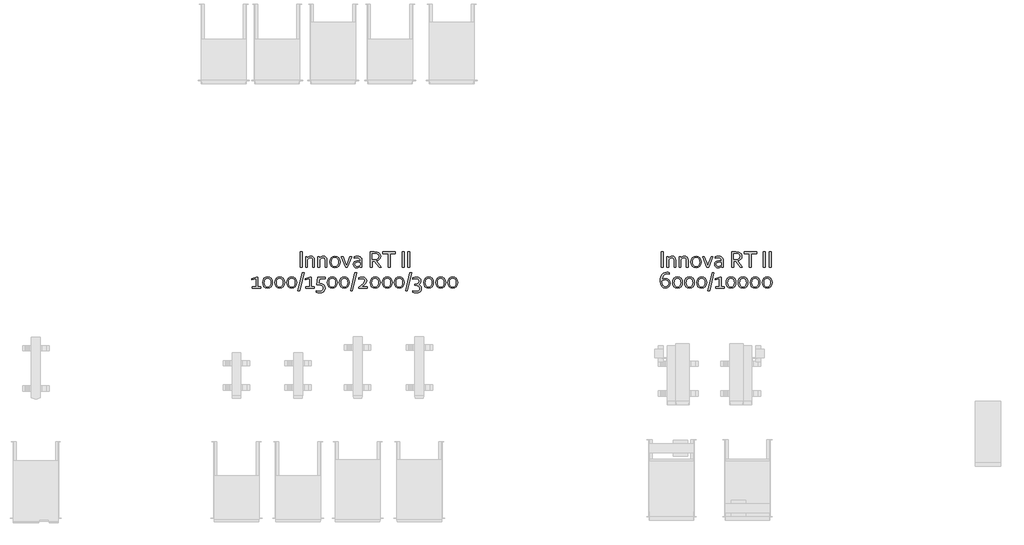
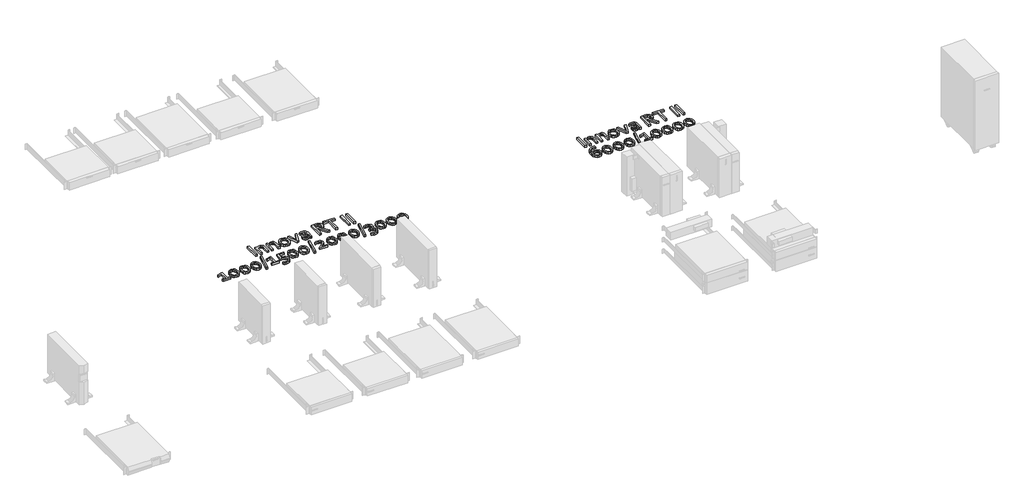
# One storey, part 7 of 14: 2 proxies.
"""IFC4 building model written with IfcOpenShell, lengths in millimetres."""

from ifc_helpers import new_model, si_unit, origin, origin_with_axes, place, context, project, spatial, polyline, outline, extrude, element, save

model = new_model("IFC4")

# Units and contexts
model_context = context("Model", 3, world=origin())
ifc_project = project(units=[si_unit("LENGTHUNIT", "METRE", prefix="MILLI")], contexts=[model_context])

# Site, building, storey
site = spatial("IfcSite", under=ifc_project)
building = spatial("IfcBuilding", under=site)
storey = spatial("IfcBuildingStorey", under=building, Name="Этаж 01", Elevation=0.0)

# Proxies
placement = place(None, origin())
element("IfcBuildingElementProxy", 1, Name="150 мм Corbel", ObjectType="150 мм Corbel", at=placement, inside=storey, context=model_context, shape_type="SweptSolid", body=[
    extrude(outline(polyline([(12080.5784617, -3344.4864996), (12080.5784617, -3193.2852077), (12100.1786291, -3193.2852077), (12100.1786291, -3344.4864996), (12080.5784617, -3344.4864996)])), origin_with_axes(), (0.0, 0.0, 1.0), 20.0),
    extrude(outline(polyline([(12150.491559, -3252.8732169), (12157.2072414, -3246.0044082), (12165.0604335, -3240.3824851), (12174.5761398, -3236.619953), (12185.841861, -3235.2855666), (12199.4482273, -3237.2980838), (12210.4514463, -3243.7950143), (12217.8452594, -3255.4982393), (12220.5796578, -3273.260891), (12220.5796578, -3344.4864996), (12203.7795143, -3344.4864996), (12203.7795143, -3275.4046594), (12202.4341903, -3263.4444009), (12198.3982183, -3255.3888633), (12191.7919118, -3250.8114805), (12182.7355845, -3249.2856862), (12165.1916846, -3254.5138559), (12150.5790597, -3268.8858537), (12150.5790597, -3344.4864996), (12133.7789162, -3344.4864996), (12133.7789162, -3238.0855905), (12147.1227802, -3238.0855905), (12150.491559, -3252.8732169)])), origin_with_axes(), (0.0, 0.0, 1.0), 20.0),
    extrude(outline(polyline([(12270.8925877, -3252.8732169), (12277.60827, -3246.0044082), (12285.4614621, -3240.3824851), (12294.9771684, -3236.619953), (12306.2428897, -3235.2855666), (12319.8492559, -3237.2980838), (12330.852475, -3243.7950143), (12338.2462881, -3255.4982393), (12340.9806865, -3273.260891), (12340.9806865, -3344.4864996), (12324.1805429, -3344.4864996), (12324.1805429, -3275.4046594), (12322.835219, -3263.4444009), (12318.799247, -3255.3888633), (12312.1929405, -3250.8114805), (12303.1366132, -3249.2856862), (12285.5927133, -3254.5138559), (12270.9800884, -3268.8858537), (12270.9800884, -3344.4864996), (12254.1799449, -3344.4864996), (12254.1799449, -3238.0855905), (12267.5238089, -3238.0855905), (12270.8925877, -3252.8732169)])), origin_with_axes(), (0.0, 0.0, 1.0), 20.0),
    extrude(outline(polyline([(12469.7817869, -3291.4172962), (12466.2161315, -3314.2331161), (12456.1097951, -3331.8863919), (12440.294035, -3343.2614891), (12419.5126074, -3347.2865235), (12398.3155513, -3343.2614891), (12382.4341657, -3331.8863919), (12372.4372052, -3314.2331161), (12368.9809257, -3291.4172962), (12372.5465812, -3268.4264747), (12382.6529175, -3250.7294485), (12398.5343032, -3239.310601), (12419.3813563, -3235.2855666), (12440.4909117, -3239.310601), (12456.3722974, -3250.7294485), (12466.3255074, -3268.4264747), (12469.7817869, -3291.4172962)]), holes=[polyline([(12452.9816434, -3291.4172962), (12450.4878721, -3273.5452685), (12443.5096875, -3260.3107804), (12432.8564715, -3252.0857101), (12419.3813563, -3249.2856862), (12405.9062412, -3252.0857101), (12395.2530252, -3260.3107804), (12388.2748406, -3273.5452685), (12385.7810693, -3291.4172962), (12388.2748406, -3309.1580727), (12395.3186507, -3322.3269353), (12406.0156171, -3330.48638), (12419.5126074, -3333.2864039), (12432.922097, -3330.48638), (12443.5096875, -3322.3269353), (12450.4878721, -3309.1580727), (12452.9816434, -3291.4172962)])]), origin_with_axes(), (0.0, 0.0, 1.0), 20.0),
    extrude(outline(polyline([(12532.6948245, -3326.8988493), (12543.4574164, -3297.2360959), (12564.9826003, -3238.0855905), (12581.7827439, -3238.0855905), (12541.7511518, -3344.4864996), (12523.8134986, -3344.4864996), (12483.7819066, -3238.0855905), (12500.5820501, -3238.0855905), (12521.9759829, -3297.2360959), (12532.6948245, -3326.8988493)])), origin_with_axes(), (0.0, 0.0, 1.0), 20.0),
    extrude(outline(polyline([(12666.308466, -3332.717649), (12660.5115415, -3338.0333194), (12653.0958531, -3342.7583598), (12643.9082746, -3346.061513), (12633.2769338, -3347.2865235), (12619.254939, -3345.0333793), (12608.2954704, -3338.4051976), (12601.1422843, -3327.7519816), (12598.5828874, -3313.5112349), (12601.4266617, -3299.5111153), (12609.3892297, -3289.0329008), (12621.7049599, -3282.4047192), (12637.6082208, -3280.0859494), (12652.8552261, -3281.5734621), (12665.3459578, -3284.9422408), (12665.7834615, -3277.3296758), (12665.2147067, -3268.9952296), (12663.2896902, -3262.6295502), (12654.014611, -3253.0700935), (12636.7332133, -3249.2856862), (12621.5299584, -3250.7731989), (12607.3767125, -3254.885734), (12607.3767125, -3241.1918671), (12613.6986415, -3238.8074717), (12621.3768321, -3236.9043304), (12629.8862798, -3235.7011951), (12638.8769817, -3235.2855666), (12653.5114817, -3236.7129225), (12665.1272059, -3240.9949904), (12673.7897799, -3247.6286408), (12679.5648293, -3256.1107445), (12681.8835991, -3264.007687), (12682.5836051, -3273.4796429), (12682.5836051, -3344.4864996), (12668.1897321, -3344.4864996), (12666.308466, -3332.717649)]), holes=[polyline([(12665.7834615, -3298.067353), (12654.1677373, -3295.4642057), (12639.4019861, -3294.086069), (12621.7487103, -3298.8548597), (12616.9744508, -3304.9033489), (12615.3830309, -3313.5112349), (12616.9799196, -3322.2613097), (12621.354957, -3328.4519876), (12627.9393882, -3332.0832686), (12636.0769577, -3333.2864039), (12646.6645482, -3331.6457649), (12655.3708726, -3327.7301064), (12661.8459279, -3323.1800675), (12665.7834615, -3319.6362873), (12665.7834615, -3298.067353)])]), origin_with_axes(), (0.0, 0.0, 1.0), 20.0),
    extrude(outline(polyline([(12783.3844663, -3282.8859733), (12783.3844663, -3344.4864996), (12763.7842988, -3344.4864996), (12763.7842988, -3193.2852077), (12802.7658819, -3193.2852077), (12819.5660254, -3194.0289641), (12832.2098835, -3196.3914843), (12846.1006271, -3202.2540344), (12856.272589, -3211.1791106), (12862.5070173, -3222.9370236), (12864.5851601, -3237.2980838), (12861.6757602, -3253.8794755), (12853.4944403, -3266.5670839), (12840.8724575, -3275.360909), (12824.553568, -3280.392202), (12870.1852079, -3344.4864996), (12850.5850405, -3344.4864996), (12805.1284021, -3282.8859733), (12783.3844663, -3282.8859733)]), holes=[polyline([(12783.3844663, -3210.0853513), (12783.3844663, -3266.0858297), (12801.0596173, -3266.0858297), (12815.1034873, -3265.5170749), (12825.5598266, -3263.4608073), (12839.9318244, -3253.9669762), (12844.9849926, -3236.9480808), (12840.1505763, -3221.1104455), (12827.0910897, -3212.4916218), (12817.6628842, -3210.6541061), (12803.6846397, -3210.0853513), (12783.3844663, -3210.0853513)])]), origin_with_axes(), (0.0, 0.0, 1.0), 20.0),
    extrude(outline(polyline([(12956.9859495, -3344.4864996), (12937.3857821, -3344.4864996), (12937.3857821, -3210.0853513), (12887.2916041, -3210.0853513), (12887.2916041, -3193.2852077), (13007.0801275, -3193.2852077), (13007.0801275, -3210.0853513), (12956.9859495, -3210.0853513), (12956.9859495, -3344.4864996)])), origin_with_axes(), (0.0, 0.0, 1.0), 20.0),
    extrude(outline(polyline([(13074.5869543, -3344.4864996), (13074.5869543, -3193.2852077), (13094.1871217, -3193.2852077), (13094.1871217, -3344.4864996), (13074.5869543, -3344.4864996)])), origin_with_axes(), (0.0, 0.0, 1.0), 20.0),
    extrude(outline(polyline([(13130.5874327, -3344.4864996), (13130.5874327, -3193.2852077), (13150.1876002, -3193.2852077), (13150.1876002, -3344.4864996), (13130.5874327, -3344.4864996)])), origin_with_axes(), (0.0, 0.0, 1.0), 20.0),
    extrude(outline(polyline([(12119.9537981, -3452.4861407), (12138.9633355, -3455.329915), (12154.0134641, -3463.7299868), (12163.8572982, -3477.445729), (12167.3792033, -3496.2802649), (12164.1416756, -3515.9241827), (12154.7790956, -3531.2805639), (12139.8164678, -3541.2775244), (12119.7350462, -3544.8869302), (12098.4723645, -3540.2275154), (12082.6566044, -3526.9055266), (12072.7908951, -3505.9272223), (12069.378366, -3478.2988613), (12071.0846305, -3455.5267917), (12076.1815491, -3434.7672394), (12084.603496, -3417.0045876), (12096.7004744, -3403.1357191), (12112.5162345, -3394.1012669), (12131.5913975, -3390.8856144), (12146.2696479, -3392.5481286), (12156.5728609, -3396.0919089), (12156.5728609, -3410.4857819), (12145.8321442, -3406.6138738), (12132.816408, -3404.885734), (12117.1975245, -3408.2107625), (12103.4599071, -3418.4702251), (12092.9598174, -3436.0797506), (12086.9660162, -3461.3237162), (12103.2849057, -3454.8924113), (12119.9537981, -3452.4861407)]), holes=[polyline([(12120.5225529, -3530.8868106), (12132.3351539, -3528.6992919), (12141.8727353, -3522.2679869), (12148.2602899, -3511.7678972), (12150.5790597, -3497.461525), (12148.1290388, -3482.9582761), (12141.4571068, -3473.355069), (12131.5695223, -3468.083149), (12119.472544, -3466.4862604), (12102.1692711, -3469.3519098), (12086.1785095, -3476.3738448), (12088.6066552, -3500.4146752), (12095.716091, -3517.4554458), (12106.6318093, -3527.5617822), (12120.5225529, -3530.8868106)])]), origin_with_axes(), (0.0, 0.0, 1.0), 20.0),
    extrude(outline(polyline([(12284.980208, -3491.8177268), (12281.7645556, -3513.9116655), (12272.4238507, -3531.6524421), (12257.5268485, -3543.4212927), (12237.4673021, -3547.6869541), (12217.0140023, -3543.4212927), (12202.0513745, -3531.6524421), (12192.8856712, -3513.9116655), (12189.7793946, -3491.8177268), (12192.9950471, -3469.5706617), (12202.3357519, -3451.7642596), (12217.2983798, -3439.9516586), (12237.3798013, -3435.6859972), (12257.7456003, -3439.9516586), (12272.7082282, -3451.7642596), (12281.8739315, -3469.5706617), (12284.980208, -3491.8177268)]), holes=[polyline([(12268.1800645, -3491.8177268), (12265.9925458, -3474.164451), (12259.8018679, -3460.9299629), (12250.1330353, -3452.5955167), (12237.3798013, -3449.6861168), (12224.6265674, -3452.5955167), (12214.9139844, -3460.9299629), (12208.7233065, -3474.164451), (12206.5795382, -3491.8177268), (12208.7670569, -3509.3178763), (12214.9577348, -3522.508614), (12224.6921929, -3530.7774346), (12237.5110525, -3533.6868345), (12250.2424112, -3530.7774346), (12259.9112438, -3522.508614), (12266.0362962, -3509.3178763), (12268.1800645, -3491.8177268)])]), origin_with_axes(), (0.0, 0.0, 1.0), 20.0),
    extrude(outline(polyline([(12402.5812128, -3491.8177268), (12399.3655603, -3513.9116655), (12390.0248555, -3531.6524421), (12375.1278532, -3543.4212927), (12355.0683068, -3547.6869541), (12334.6150071, -3543.4212927), (12319.6523793, -3531.6524421), (12310.486676, -3513.9116655), (12307.3803994, -3491.8177268), (12310.5960519, -3469.5706617), (12319.9367567, -3451.7642596), (12334.8993845, -3439.9516586), (12354.9808061, -3435.6859972), (12375.3466051, -3439.9516586), (12390.3092329, -3451.7642596), (12399.4749363, -3469.5706617), (12402.5812128, -3491.8177268)]), holes=[polyline([(12385.7810693, -3491.8177268), (12383.5935506, -3474.164451), (12377.4028727, -3460.9299629), (12367.7340401, -3452.5955167), (12354.9808061, -3449.6861168), (12342.2275721, -3452.5955167), (12332.5149892, -3460.9299629), (12326.3243113, -3474.164451), (12324.1805429, -3491.8177268), (12326.3680616, -3509.3178763), (12332.5587395, -3522.508614), (12342.2931977, -3530.7774346), (12355.1120572, -3533.6868345), (12367.843416, -3530.7774346), (12377.5122486, -3522.508614), (12383.6373009, -3509.3178763), (12385.7810693, -3491.8177268)])]), origin_with_axes(), (0.0, 0.0, 1.0), 20.0),
    extrude(outline(polyline([(12520.1822176, -3491.8177268), (12516.9665651, -3513.9116655), (12507.6258603, -3531.6524421), (12492.728858, -3543.4212927), (12472.6693116, -3547.6869541), (12452.2160119, -3543.4212927), (12437.253384, -3531.6524421), (12428.0876807, -3513.9116655), (12424.9814042, -3491.8177268), (12428.1970566, -3469.5706617), (12437.5377615, -3451.7642596), (12452.5003893, -3439.9516586), (12472.5818109, -3435.6859972), (12492.9476099, -3439.9516586), (12507.9102377, -3451.7642596), (12517.075941, -3469.5706617), (12520.1822176, -3491.8177268)]), holes=[polyline([(12503.382074, -3491.8177268), (12501.1945553, -3474.164451), (12495.0038774, -3460.9299629), (12485.3350448, -3452.5955167), (12472.5818109, -3449.6861168), (12459.8285769, -3452.5955167), (12450.1159939, -3460.9299629), (12443.925316, -3474.164451), (12441.7815477, -3491.8177268), (12443.9690664, -3509.3178763), (12450.1597443, -3522.508614), (12459.8942025, -3530.7774346), (12472.713062, -3533.6868345), (12485.4444208, -3530.7774346), (12495.1132534, -3522.508614), (12501.2383057, -3509.3178763), (12503.382074, -3491.8177268)])]), origin_with_axes(), (0.0, 0.0, 1.0), 20.0),
    extrude(outline(polyline([(12533.3948304, -3572.8871694), (12576.0076945, -3393.6856384), (12592.5890862, -3393.6856384), (12549.9762221, -3572.8871694), (12533.3948304, -3572.8871694)])), origin_with_axes(), (0.0, 0.0, 1.0), 20.0),
    extrude(outline(polyline([(12646.1832941, -3530.8868106), (12646.1832941, -3452.4861407), (12605.7141983, -3466.4862604), (12605.7141983, -3452.4861407), (12648.4583135, -3438.4860211), (12662.9834376, -3438.4860211), (12662.9834376, -3530.8868106), (12692.3399384, -3530.8868106), (12692.3399384, -3544.8869302), (12610.3954883, -3544.8869302), (12610.3954883, -3530.8868106), (12646.1832941, -3530.8868106)])), origin_with_axes(), (0.0, 0.0, 1.0), 20.0),
    extrude(outline(polyline([(12805.7846577, -3491.8177268), (12802.5690052, -3513.9116655), (12793.2283004, -3531.6524421), (12778.3312981, -3543.4212927), (12758.2717517, -3547.6869541), (12737.818452, -3543.4212927), (12722.8558242, -3531.6524421), (12713.6901208, -3513.9116655), (12710.5838443, -3491.8177268), (12713.7994968, -3469.5706617), (12723.1402016, -3451.7642596), (12738.1028294, -3439.9516586), (12758.184251, -3435.6859972), (12778.55005, -3439.9516586), (12793.5126778, -3451.7642596), (12802.6783811, -3469.5706617), (12805.7846577, -3491.8177268)]), holes=[polyline([(12788.9845142, -3491.8177268), (12786.7969955, -3474.164451), (12780.6063176, -3460.9299629), (12770.937485, -3452.5955167), (12758.184251, -3449.6861168), (12745.431017, -3452.5955167), (12735.7184341, -3460.9299629), (12729.5277562, -3474.164451), (12727.3839878, -3491.8177268), (12729.5715065, -3509.3178763), (12735.7621844, -3522.508614), (12745.4966426, -3530.7774346), (12758.3155021, -3533.6868345), (12771.0468609, -3530.7774346), (12780.7156935, -3522.508614), (12786.8407458, -3509.3178763), (12788.9845142, -3491.8177268)])]), origin_with_axes(), (0.0, 0.0, 1.0), 20.0),
    extrude(outline(polyline([(12923.3856625, -3491.8177268), (12920.17001, -3513.9116655), (12910.8293052, -3531.6524421), (12895.9323029, -3543.4212927), (12875.8727565, -3547.6869541), (12855.4194568, -3543.4212927), (12840.4568289, -3531.6524421), (12831.2911256, -3513.9116655), (12828.1848491, -3491.8177268), (12831.4005015, -3469.5706617), (12840.7412064, -3451.7642596), (12855.7038342, -3439.9516586), (12875.7852558, -3435.6859972), (12896.1510548, -3439.9516586), (12911.1136826, -3451.7642596), (12920.2793859, -3469.5706617), (12923.3856625, -3491.8177268)]), holes=[polyline([(12906.5855189, -3491.8177268), (12904.3980002, -3474.164451), (12898.2073223, -3460.9299629), (12888.5384897, -3452.5955167), (12875.7852558, -3449.6861168), (12863.0320218, -3452.5955167), (12853.3194388, -3460.9299629), (12847.1287609, -3474.164451), (12844.9849926, -3491.8177268), (12847.1725113, -3509.3178763), (12853.3631892, -3522.508614), (12863.0976474, -3530.7774346), (12875.9165069, -3533.6868345), (12888.6478657, -3530.7774346), (12898.3166983, -3522.508614), (12904.4417506, -3509.3178763), (12906.5855189, -3491.8177268)])]), origin_with_axes(), (0.0, 0.0, 1.0), 20.0),
    extrude(outline(polyline([(13040.9866672, -3491.8177268), (13037.7710147, -3513.9116655), (13028.4303099, -3531.6524421), (13013.5333077, -3543.4212927), (12993.4737613, -3547.6869541), (12973.0204615, -3543.4212927), (12958.0578337, -3531.6524421), (12948.8921304, -3513.9116655), (12945.7858538, -3491.8177268), (12949.0015063, -3469.5706617), (12958.3422111, -3451.7642596), (12973.304839, -3439.9516586), (12993.3862605, -3435.6859972), (13013.7520595, -3439.9516586), (13028.7146874, -3451.7642596), (13037.8803907, -3469.5706617), (13040.9866672, -3491.8177268)]), holes=[polyline([(13024.1865237, -3491.8177268), (13021.999005, -3474.164451), (13015.8083271, -3460.9299629), (13006.1394945, -3452.5955167), (12993.3862605, -3449.6861168), (12980.6330266, -3452.5955167), (12970.9204436, -3460.9299629), (12964.7297657, -3474.164451), (12962.5859974, -3491.8177268), (12964.7735161, -3509.3178763), (12970.964194, -3522.508614), (12980.6986521, -3530.7774346), (12993.5175116, -3533.6868345), (13006.2488704, -3530.7774346), (13015.917703, -3522.508614), (13022.0427554, -3509.3178763), (13024.1865237, -3491.8177268)])]), origin_with_axes(), (0.0, 0.0, 1.0), 20.0),
    extrude(outline(polyline([(13158.587672, -3491.8177268), (13155.3720195, -3513.9116655), (13146.0313147, -3531.6524421), (13131.1343124, -3543.4212927), (13111.074766, -3547.6869541), (13090.6214663, -3543.4212927), (13075.6588384, -3531.6524421), (13066.4931351, -3513.9116655), (13063.3868586, -3491.8177268), (13066.6025111, -3469.5706617), (13075.9432159, -3451.7642596), (13090.9058437, -3439.9516586), (13110.9872653, -3435.6859972), (13131.3530643, -3439.9516586), (13146.3156921, -3451.7642596), (13155.4813954, -3469.5706617), (13158.587672, -3491.8177268)]), holes=[polyline([(13141.7875284, -3491.8177268), (13139.6000097, -3474.164451), (13133.4093319, -3460.9299629), (13123.7404992, -3452.5955167), (13110.9872653, -3449.6861168), (13098.2340313, -3452.5955167), (13088.5214483, -3460.9299629), (13082.3307705, -3474.164451), (13080.1870021, -3491.8177268), (13082.3745208, -3509.3178763), (13088.5651987, -3522.508614), (13098.2996569, -3530.7774346), (13111.1185164, -3533.6868345), (13123.8498752, -3530.7774346), (13133.5187078, -3522.508614), (13139.6437601, -3509.3178763), (13141.7875284, -3491.8177268)])]), origin_with_axes(), (0.0, 0.0, 1.0), 20.0),
])
element("IfcBuildingElementProxy", 2, Name="150 мм Corbel", ObjectType="150 мм Corbel", at=placement, inside=storey, context=model_context, shape_type="SweptSolid", body=[
    extrude(outline(polyline([(8562.4134355, -3344.4864996), (8562.4134355, -3193.2852077), (8582.013603, -3193.2852077), (8582.013603, -3344.4864996), (8562.4134355, -3344.4864996)])), origin_with_axes(), (0.0, 0.0, 1.0), 20.0),
    extrude(outline(polyline([(8632.3265328, -3252.8732169), (8639.0422152, -3246.0044082), (8646.8954073, -3240.3824851), (8656.4111136, -3236.619953), (8667.6768349, -3235.2855666), (8681.2832011, -3237.2980838), (8692.2864201, -3243.7950143), (8699.6802333, -3255.4982393), (8702.4146317, -3273.260891), (8702.4146317, -3344.4864996), (8685.6144881, -3344.4864996), (8685.6144881, -3275.4046594), (8684.2691641, -3263.4444009), (8680.2331921, -3255.3888633), (8673.6268857, -3250.8114805), (8664.5705583, -3249.2856862), (8647.0266584, -3254.5138559), (8632.4140336, -3268.8858537), (8632.4140336, -3344.4864996), (8615.61389, -3344.4864996), (8615.61389, -3238.0855905), (8628.9577541, -3238.0855905), (8632.3265328, -3252.8732169)])), origin_with_axes(), (0.0, 0.0, 1.0), 20.0),
    extrude(outline(polyline([(8752.7275615, -3252.8732169), (8759.4432439, -3246.0044082), (8767.296436, -3240.3824851), (8776.8121423, -3236.619953), (8788.0778635, -3235.2855666), (8801.6842298, -3237.2980838), (8812.6874488, -3243.7950143), (8820.081262, -3255.4982393), (8822.8156603, -3273.260891), (8822.8156603, -3344.4864996), (8806.0155168, -3344.4864996), (8806.0155168, -3275.4046594), (8804.6701928, -3263.4444009), (8800.6342208, -3255.3888633), (8794.0279144, -3250.8114805), (8784.971587, -3249.2856862), (8767.4276871, -3254.5138559), (8752.8150623, -3268.8858537), (8752.8150623, -3344.4864996), (8736.0149187, -3344.4864996), (8736.0149187, -3238.0855905), (8749.3587827, -3238.0855905), (8752.7275615, -3252.8732169)])), origin_with_axes(), (0.0, 0.0, 1.0), 20.0),
    extrude(outline(polyline([(8951.6167608, -3291.4172962), (8948.0511053, -3314.2331161), (8937.944769, -3331.8863919), (8922.1290089, -3343.2614891), (8901.3475813, -3347.2865235), (8880.1505252, -3343.2614891), (8864.2691395, -3331.8863919), (8854.2721791, -3314.2331161), (8850.8158996, -3291.4172962), (8854.381555, -3268.4264747), (8864.4878914, -3250.7294485), (8880.3692771, -3239.310601), (8901.2163302, -3235.2855666), (8922.3258855, -3239.310601), (8938.2072712, -3250.7294485), (8948.1604813, -3268.4264747), (8951.6167608, -3291.4172962)]), holes=[polyline([(8934.8166173, -3291.4172962), (8932.3228459, -3273.5452685), (8925.3446613, -3260.3107804), (8914.6914453, -3252.0857101), (8901.2163302, -3249.2856862), (8887.7412151, -3252.0857101), (8877.087999, -3260.3107804), (8870.1098144, -3273.5452685), (8867.6160431, -3291.4172962), (8870.1098144, -3309.1580727), (8877.1536246, -3322.3269353), (8887.850591, -3330.48638), (8901.3475813, -3333.2864039), (8914.7570709, -3330.48638), (8925.3446613, -3322.3269353), (8932.3228459, -3309.1580727), (8934.8166173, -3291.4172962)])]), origin_with_axes(), (0.0, 0.0, 1.0), 20.0),
    extrude(outline(polyline([(9014.5297983, -3326.8988493), (9025.2923903, -3297.2360959), (9046.8175742, -3238.0855905), (9063.6177177, -3238.0855905), (9023.5861257, -3344.4864996), (9005.6484724, -3344.4864996), (8965.6168804, -3238.0855905), (8982.4170239, -3238.0855905), (9003.8109567, -3297.2360959), (9014.5297983, -3326.8988493)])), origin_with_axes(), (0.0, 0.0, 1.0), 20.0),
    extrude(outline(polyline([(9148.1434399, -3332.717649), (9142.3465154, -3338.0333194), (9134.930827, -3342.7583598), (9125.7432485, -3346.061513), (9115.1119077, -3347.2865235), (9101.0899129, -3345.0333793), (9090.1304442, -3338.4051976), (9082.9772581, -3327.7519816), (9080.4178612, -3313.5112349), (9083.2616355, -3299.5111153), (9091.2242036, -3289.0329008), (9103.5399338, -3282.4047192), (9119.4431947, -3280.0859494), (9134.6901999, -3281.5734621), (9147.1809317, -3284.9422408), (9147.6184354, -3277.3296758), (9147.0496805, -3268.9952296), (9145.1246641, -3262.6295502), (9135.8495848, -3253.0700935), (9118.5681872, -3249.2856862), (9103.3649323, -3250.7731989), (9089.2116864, -3254.885734), (9089.2116864, -3241.1918671), (9095.5336154, -3238.8074717), (9103.211806, -3236.9043304), (9111.7212537, -3235.7011951), (9120.7119555, -3235.2855666), (9135.3464555, -3236.7129225), (9146.9621798, -3240.9949904), (9155.6247538, -3247.6286408), (9161.3998031, -3256.1107445), (9163.718573, -3264.007687), (9164.4185789, -3273.4796429), (9164.4185789, -3344.4864996), (9150.024706, -3344.4864996), (9148.1434399, -3332.717649)]), holes=[polyline([(9147.6184354, -3298.067353), (9136.0027112, -3295.4642057), (9121.23696, -3294.086069), (9103.5836842, -3298.8548597), (9098.8094246, -3304.9033489), (9097.2180048, -3313.5112349), (9098.8148934, -3322.2613097), (9103.1899308, -3328.4519876), (9109.7743621, -3332.0832686), (9117.9119316, -3333.2864039), (9128.499522, -3331.6457649), (9137.2058464, -3327.7301064), (9143.6809018, -3323.1800675), (9147.6184354, -3319.6362873), (9147.6184354, -3298.067353)])]), origin_with_axes(), (0.0, 0.0, 1.0), 20.0),
    extrude(outline(polyline([(9265.2194402, -3282.8859733), (9265.2194402, -3344.4864996), (9245.6192727, -3344.4864996), (9245.6192727, -3193.2852077), (9284.6008557, -3193.2852077), (9301.4009993, -3194.0289641), (9314.0448573, -3196.3914843), (9327.935601, -3202.2540344), (9338.1075629, -3211.1791106), (9344.3419912, -3222.9370236), (9346.4201339, -3237.2980838), (9343.5107341, -3253.8794755), (9335.3294142, -3266.5670839), (9322.7074313, -3275.360909), (9306.3885419, -3280.392202), (9352.0201818, -3344.4864996), (9332.4200143, -3344.4864996), (9286.9633759, -3282.8859733), (9265.2194402, -3282.8859733)]), holes=[polyline([(9265.2194402, -3210.0853513), (9265.2194402, -3266.0858297), (9282.8945912, -3266.0858297), (9296.9384612, -3265.5170749), (9307.3948005, -3263.4608073), (9321.7667983, -3253.9669762), (9326.8199665, -3236.9480808), (9321.9855502, -3221.1104455), (9308.9260636, -3212.4916218), (9299.497858, -3210.6541061), (9285.5196136, -3210.0853513), (9265.2194402, -3210.0853513)])]), origin_with_axes(), (0.0, 0.0, 1.0), 20.0),
    extrude(outline(polyline([(9438.8209234, -3344.4864996), (9419.2207559, -3344.4864996), (9419.2207559, -3210.0853513), (9369.1265779, -3210.0853513), (9369.1265779, -3193.2852077), (9488.9151014, -3193.2852077), (9488.9151014, -3210.0853513), (9438.8209234, -3210.0853513), (9438.8209234, -3344.4864996)])), origin_with_axes(), (0.0, 0.0, 1.0), 20.0),
    extrude(outline(polyline([(9556.4219281, -3344.4864996), (9556.4219281, -3193.2852077), (9576.0220956, -3193.2852077), (9576.0220956, -3344.4864996), (9556.4219281, -3344.4864996)])), origin_with_axes(), (0.0, 0.0, 1.0), 20.0),
    extrude(outline(polyline([(9612.4224066, -3344.4864996), (9612.4224066, -3193.2852077), (9632.0225741, -3193.2852077), (9632.0225741, -3344.4864996), (9612.4224066, -3344.4864996)])), origin_with_axes(), (0.0, 0.0, 1.0), 20.0),
    extrude(outline(polyline([(8134.0097753, -3530.8868106), (8134.0097753, -3452.4861407), (8093.5406795, -3466.4862604), (8093.5406795, -3452.4861407), (8136.2847947, -3438.4860211), (8150.8099188, -3438.4860211), (8150.8099188, -3530.8868106), (8180.1664197, -3530.8868106), (8180.1664197, -3544.8869302), (8098.2219695, -3544.8869302), (8098.2219695, -3530.8868106), (8134.0097753, -3530.8868106)])), origin_with_axes(), (0.0, 0.0, 1.0), 20.0),
    extrude(outline(polyline([(8293.6111389, -3491.8177268), (8290.3954864, -3513.9116655), (8281.0547816, -3531.6524421), (8266.1577794, -3543.4212927), (8246.098233, -3547.6869541), (8225.6449332, -3543.4212927), (8210.6823054, -3531.6524421), (8201.5166021, -3513.9116655), (8198.4103255, -3491.8177268), (8201.625978, -3469.5706617), (8210.9666828, -3451.7642596), (8225.9293106, -3439.9516586), (8246.0107322, -3435.6859972), (8266.3765312, -3439.9516586), (8281.3391591, -3451.7642596), (8290.5048624, -3469.5706617), (8293.6111389, -3491.8177268)]), holes=[polyline([(8276.8109954, -3491.8177268), (8274.6234767, -3474.164451), (8268.4327988, -3460.9299629), (8258.7639662, -3452.5955167), (8246.0107322, -3449.6861168), (8233.2574983, -3452.5955167), (8223.5449153, -3460.9299629), (8217.3542374, -3474.164451), (8215.2104691, -3491.8177268), (8217.3979878, -3509.3178763), (8223.5886656, -3522.508614), (8233.3231238, -3530.7774346), (8246.1419833, -3533.6868345), (8258.8733421, -3530.7774346), (8268.5421747, -3522.508614), (8274.6672271, -3509.3178763), (8276.8109954, -3491.8177268)])]), origin_with_axes(), (0.0, 0.0, 1.0), 20.0),
    extrude(outline(polyline([(8411.2121437, -3491.8177268), (8407.9964912, -3513.9116655), (8398.6557864, -3531.6524421), (8383.7587841, -3543.4212927), (8363.6992377, -3547.6869541), (8343.245938, -3543.4212927), (8328.2833101, -3531.6524421), (8319.1176068, -3513.9116655), (8316.0113303, -3491.8177268), (8319.2269828, -3469.5706617), (8328.5676876, -3451.7642596), (8343.5303154, -3439.9516586), (8363.611737, -3435.6859972), (8383.977536, -3439.9516586), (8398.9401638, -3451.7642596), (8408.1058671, -3469.5706617), (8411.2121437, -3491.8177268)]), holes=[polyline([(8394.4120001, -3491.8177268), (8392.2244814, -3474.164451), (8386.0338036, -3460.9299629), (8376.3649709, -3452.5955167), (8363.611737, -3449.6861168), (8350.858503, -3452.5955167), (8341.14592, -3460.9299629), (8334.9552421, -3474.164451), (8332.8114738, -3491.8177268), (8334.9989925, -3509.3178763), (8341.1896704, -3522.508614), (8350.9241286, -3530.7774346), (8363.7429881, -3533.6868345), (8376.4743469, -3530.7774346), (8386.1431795, -3522.508614), (8392.2682318, -3509.3178763), (8394.4120001, -3491.8177268)])]), origin_with_axes(), (0.0, 0.0, 1.0), 20.0),
    extrude(outline(polyline([(8528.8131484, -3491.8177268), (8525.597496, -3513.9116655), (8516.2567912, -3531.6524421), (8501.3597889, -3543.4212927), (8481.3002425, -3547.6869541), (8460.8469427, -3543.4212927), (8445.8843149, -3531.6524421), (8436.7186116, -3513.9116655), (8433.6123351, -3491.8177268), (8436.8279875, -3469.5706617), (8446.1686923, -3451.7642596), (8461.1313202, -3439.9516586), (8481.2127417, -3435.6859972), (8501.5785407, -3439.9516586), (8516.5411686, -3451.7642596), (8525.7068719, -3469.5706617), (8528.8131484, -3491.8177268)]), holes=[polyline([(8512.0130049, -3491.8177268), (8509.8254862, -3474.164451), (8503.6348083, -3460.9299629), (8493.9659757, -3452.5955167), (8481.2127417, -3449.6861168), (8468.4595078, -3452.5955167), (8458.7469248, -3460.9299629), (8452.5562469, -3474.164451), (8450.4124786, -3491.8177268), (8452.5999973, -3509.3178763), (8458.7906752, -3522.508614), (8468.5251333, -3530.7774346), (8481.3439929, -3533.6868345), (8494.0753516, -3530.7774346), (8503.7441842, -3522.508614), (8509.8692366, -3509.3178763), (8512.0130049, -3491.8177268)])]), origin_with_axes(), (0.0, 0.0, 1.0), 20.0),
    extrude(outline(polyline([(8542.0257613, -3572.8871694), (8584.6386254, -3393.6856384), (8601.2200171, -3393.6856384), (8558.607153, -3572.8871694), (8542.0257613, -3572.8871694)])), origin_with_axes(), (0.0, 0.0, 1.0), 20.0),
    extrude(outline(polyline([(8654.814225, -3530.8868106), (8654.814225, -3452.4861407), (8614.3451292, -3466.4862604), (8614.3451292, -3452.4861407), (8657.0892444, -3438.4860211), (8671.6143685, -3438.4860211), (8671.6143685, -3530.8868106), (8700.9708693, -3530.8868106), (8700.9708693, -3544.8869302), (8619.0264192, -3544.8869302), (8619.0264192, -3530.8868106), (8654.814225, -3530.8868106)])), origin_with_axes(), (0.0, 0.0, 1.0), 20.0),
    extrude(outline(polyline([(8806.0155168, -3544.7556791), (8802.5373621, -3563.8089669), (8792.343525, -3578.924721), (8775.4121303, -3588.8998062), (8752.202557, -3592.4873369), (8735.9492932, -3590.9998242), (8722.0585495, -3586.4497853), (8722.0585495, -3572.8871694), (8737.7430585, -3577.3278324), (8751.4150503, -3578.4872173), (8768.0183172, -3575.8621948), (8779.7871677, -3568.7090087), (8786.8528531, -3558.1651686), (8789.2153733, -3545.5431858), (8786.721602, -3531.6086917), (8778.9121602, -3521.8304832), (8765.2620436, -3516.0116835), (8745.1587469, -3514.086667), (8725.3835779, -3515.2241768), (8736.0149187, -3438.4860211), (8807.0655258, -3438.4860211), (8807.0655258, -3452.4861407), (8752.8150623, -3452.4861407), (8746.5587588, -3500.3052993), (8752.8150623, -3500.0865474), (8775.5652566, -3503.1053232), (8792.2560242, -3511.8335228), (8802.5154869, -3525.8336424), (8806.0155168, -3544.7556791)])), origin_with_axes(), (0.0, 0.0, 1.0), 20.0),
    extrude(outline(polyline([(8923.6165216, -3491.8177268), (8920.4008691, -3513.9116655), (8911.0601643, -3531.6524421), (8896.163162, -3543.4212927), (8876.1036156, -3547.6869541), (8855.6503159, -3543.4212927), (8840.687688, -3531.6524421), (8831.5219847, -3513.9116655), (8828.4157082, -3491.8177268), (8831.6313607, -3469.5706617), (8840.9720655, -3451.7642596), (8855.9346933, -3439.9516586), (8876.0161149, -3435.6859972), (8896.3819139, -3439.9516586), (8911.3445417, -3451.7642596), (8920.510245, -3469.5706617), (8923.6165216, -3491.8177268)]), holes=[polyline([(8906.816378, -3491.8177268), (8904.6288593, -3474.164451), (8898.4381814, -3460.9299629), (8888.7693488, -3452.5955167), (8876.0161149, -3449.6861168), (8863.2628809, -3452.5955167), (8853.5502979, -3460.9299629), (8847.35962, -3474.164451), (8845.2158517, -3491.8177268), (8847.4033704, -3509.3178763), (8853.5940483, -3522.508614), (8863.3285065, -3530.7774346), (8876.147366, -3533.6868345), (8888.8787248, -3530.7774346), (8898.5475574, -3522.508614), (8904.6726097, -3509.3178763), (8906.816378, -3491.8177268)])]), origin_with_axes(), (0.0, 0.0, 1.0), 20.0),
    extrude(outline(polyline([(9041.2175263, -3491.8177268), (9038.0018739, -3513.9116655), (9028.661169, -3531.6524421), (9013.7641668, -3543.4212927), (8993.7046204, -3547.6869541), (8973.2513206, -3543.4212927), (8958.2886928, -3531.6524421), (8949.1229895, -3513.9116655), (8946.0167129, -3491.8177268), (8949.2323654, -3469.5706617), (8958.5730702, -3451.7642596), (8973.5356981, -3439.9516586), (8993.6171196, -3435.6859972), (9013.9829186, -3439.9516586), (9028.9455465, -3451.7642596), (9038.1112498, -3469.5706617), (9041.2175263, -3491.8177268)]), holes=[polyline([(9024.4173828, -3491.8177268), (9022.2298641, -3474.164451), (9016.0391862, -3460.9299629), (9006.3703536, -3452.5955167), (8993.6171196, -3449.6861168), (8980.8638857, -3452.5955167), (8971.1513027, -3460.9299629), (8964.9606248, -3474.164451), (8962.8168565, -3491.8177268), (8965.0043752, -3509.3178763), (8971.1950531, -3522.508614), (8980.9295112, -3530.7774346), (8993.7483708, -3533.6868345), (9006.4797295, -3530.7774346), (9016.1485621, -3522.508614), (9022.2736145, -3509.3178763), (9024.4173828, -3491.8177268)])]), origin_with_axes(), (0.0, 0.0, 1.0), 20.0),
    extrude(outline(polyline([(9054.4301392, -3572.8871694), (9097.0430033, -3393.6856384), (9113.624395, -3393.6856384), (9071.0115309, -3572.8871694), (9054.4301392, -3572.8871694)])), origin_with_axes(), (0.0, 0.0, 1.0), 20.0),
    extrude(outline(polyline([(9161.3998031, -3531.3243143), (9184.5875013, -3530.8868106), (9218.2752891, -3530.8868106), (9218.2752891, -3544.8869302), (9133.0058105, -3544.8869302), (9133.0058105, -3535.3493487), (9156.7841387, -3517.5648218), (9175.5530491, -3501.7490616), (9187.9344048, -3487.0051857), (9192.4188182, -3472.5675623), (9190.8492735, -3463.9596763), (9186.1406395, -3457.6486848), (9178.4897929, -3453.7767768), (9168.0936103, -3452.4861407), (9151.1184653, -3454.0830294), (9134.1433203, -3458.0861886), (9134.1433203, -3446.0110854), (9149.8934548, -3440.7391654), (9170.4561305, -3438.4860211), (9186.6000184, -3440.7172902), (9198.8282479, -3447.2142207), (9206.5064385, -3457.7580608), (9209.2189617, -3472.2613097), (9205.6751814, -3488.6239495), (9195.8750977, -3503.2365743), (9180.6499676, -3517.0616925), (9161.3998031, -3531.3243143)])), origin_with_axes(), (0.0, 0.0, 1.0), 20.0),
    extrude(outline(polyline([(9340.8200861, -3491.8177268), (9337.6044336, -3513.9116655), (9328.2637288, -3531.6524421), (9313.3667265, -3543.4212927), (9293.3071801, -3547.6869541), (9272.8538804, -3543.4212927), (9257.8912525, -3531.6524421), (9248.7255492, -3513.9116655), (9245.6192727, -3491.8177268), (9248.8349252, -3469.5706617), (9258.17563, -3451.7642596), (9273.1382578, -3439.9516586), (9293.2196794, -3435.6859972), (9313.5854784, -3439.9516586), (9328.5481062, -3451.7642596), (9337.7138095, -3469.5706617), (9340.8200861, -3491.8177268)]), holes=[polyline([(9324.0199425, -3491.8177268), (9321.8324238, -3474.164451), (9315.641746, -3460.9299629), (9305.9729133, -3452.5955167), (9293.2196794, -3449.6861168), (9280.4664454, -3452.5955167), (9270.7538624, -3460.9299629), (9264.5631846, -3474.164451), (9262.4194162, -3491.8177268), (9264.6069349, -3509.3178763), (9270.7976128, -3522.508614), (9280.532071, -3530.7774346), (9293.3509305, -3533.6868345), (9306.0822893, -3530.7774346), (9315.7511219, -3522.508614), (9321.8761742, -3509.3178763), (9324.0199425, -3491.8177268)])]), origin_with_axes(), (0.0, 0.0, 1.0), 20.0),
    extrude(outline(polyline([(9458.4210908, -3491.8177268), (9455.2054384, -3513.9116655), (9445.8647336, -3531.6524421), (9430.9677313, -3543.4212927), (9410.9081849, -3547.6869541), (9390.4548851, -3543.4212927), (9375.4922573, -3531.6524421), (9366.326554, -3513.9116655), (9363.2202775, -3491.8177268), (9366.4359299, -3469.5706617), (9375.7766347, -3451.7642596), (9390.7392626, -3439.9516586), (9410.8206841, -3435.6859972), (9431.1864832, -3439.9516586), (9446.149111, -3451.7642596), (9455.3148143, -3469.5706617), (9458.4210908, -3491.8177268)]), holes=[polyline([(9441.6209473, -3491.8177268), (9439.4334286, -3474.164451), (9433.2427507, -3460.9299629), (9423.5739181, -3452.5955167), (9410.8206841, -3449.6861168), (9398.0674502, -3452.5955167), (9388.3548672, -3460.9299629), (9382.1641893, -3474.164451), (9380.020421, -3491.8177268), (9382.2079397, -3509.3178763), (9388.3986176, -3522.508614), (9398.1330757, -3530.7774346), (9410.9519353, -3533.6868345), (9423.683294, -3530.7774346), (9433.3521267, -3522.508614), (9439.477179, -3509.3178763), (9441.6209473, -3491.8177268)])]), origin_with_axes(), (0.0, 0.0, 1.0), 20.0),
    extrude(outline(polyline([(9576.0220956, -3491.8177268), (9572.8064431, -3513.9116655), (9563.4657383, -3531.6524421), (9548.568736, -3543.4212927), (9528.5091897, -3547.6869541), (9508.0558899, -3543.4212927), (9493.0932621, -3531.6524421), (9483.9275588, -3513.9116655), (9480.8212822, -3491.8177268), (9484.0369347, -3469.5706617), (9493.3776395, -3451.7642596), (9508.3402673, -3439.9516586), (9528.4216889, -3435.6859972), (9548.7874879, -3439.9516586), (9563.7501158, -3451.7642596), (9572.9158191, -3469.5706617), (9576.0220956, -3491.8177268)]), holes=[polyline([(9559.2219521, -3491.8177268), (9557.0344334, -3474.164451), (9550.8437555, -3460.9299629), (9541.1749229, -3452.5955167), (9528.4216889, -3449.6861168), (9515.668455, -3452.5955167), (9505.955872, -3460.9299629), (9499.7651941, -3474.164451), (9497.6214258, -3491.8177268), (9499.8089444, -3509.3178763), (9505.9996223, -3522.508614), (9515.7340805, -3530.7774346), (9528.55294, -3533.6868345), (9541.2842988, -3530.7774346), (9550.9531314, -3522.508614), (9557.0781837, -3509.3178763), (9559.2219521, -3491.8177268)])]), origin_with_axes(), (0.0, 0.0, 1.0), 20.0),
    extrude(outline(polyline([(9589.2347085, -3572.8871694), (9631.8475726, -3393.6856384), (9648.4289642, -3393.6856384), (9605.8161002, -3572.8871694), (9589.2347085, -3572.8871694)])), origin_with_axes(), (0.0, 0.0, 1.0), 20.0),
    extrude(outline(polyline([(9712.7420137, -3511.6803965), (9724.1171109, -3514.8085482), (9733.7421931, -3521.5242306), (9740.98288, -3532.2649474), (9744.023531, -3547.2057), (9740.8078785, -3565.8871096), (9731.270297, -3580.1934818), (9715.0389083, -3589.2935596), (9692.1355877, -3592.4873369), (9674.7885644, -3590.9560738), (9660.1540644, -3586.4497853), (9660.1540644, -3572.8871694), (9676.1010757, -3577.1747061), (9690.8668268, -3578.4872173), (9708.1482245, -3575.9059452), (9719.3045698, -3569.1027621), (9725.3639966, -3559.3245535), (9727.2233874, -3547.7307045), (9724.7678977, -3534.9282514), (9717.4014285, -3526.2711461), (9705.6380468, -3521.3328227), (9689.9918193, -3519.6867149), (9678.0917177, -3519.6867149), (9678.0917177, -3505.6865953), (9685.0480271, -3505.6865953), (9701.6075436, -3503.4990766), (9712.9826408, -3497.461525), (9719.5451968, -3488.3833224), (9721.6233396, -3477.1176012), (9719.326445, -3466.092507), (9713.0482663, -3458.4361916), (9703.6856863, -3453.9517783), (9692.1355877, -3452.4861407), (9676.7573313, -3453.9955286), (9661.510326, -3458.0861886), (9661.510326, -3444.6110735), (9679.0542259, -3439.8204075), (9693.7981019, -3438.4860211), (9713.2013926, -3441.3516706), (9727.1577619, -3449.3798642), (9735.5140833, -3461.5862185), (9738.4234831, -3477.1176012), (9737.0672215, -3488.0114443), (9732.6265586, -3497.811528), (9724.6639906, -3505.8397216), (9712.7420137, -3511.6803965)])), origin_with_axes(), (0.0, 0.0, 1.0), 20.0),
    extrude(outline(polyline([(9861.6245357, -3491.8177268), (9858.4088833, -3513.9116655), (9849.0681785, -3531.6524421), (9834.1711762, -3543.4212927), (9814.1116298, -3547.6869541), (9793.65833, -3543.4212927), (9778.6957022, -3531.6524421), (9769.5299989, -3513.9116655), (9766.4237224, -3491.8177268), (9769.6393748, -3469.5706617), (9778.9800796, -3451.7642596), (9793.9427075, -3439.9516586), (9814.024129, -3435.6859972), (9834.3899281, -3439.9516586), (9849.3525559, -3451.7642596), (9858.5182592, -3469.5706617), (9861.6245357, -3491.8177268)]), holes=[polyline([(9844.8243922, -3491.8177268), (9842.6368735, -3474.164451), (9836.4461956, -3460.9299629), (9826.777363, -3452.5955167), (9814.024129, -3449.6861168), (9801.2708951, -3452.5955167), (9791.5583121, -3460.9299629), (9785.3676342, -3474.164451), (9783.2238659, -3491.8177268), (9785.4113846, -3509.3178763), (9791.6020625, -3522.508614), (9801.3365206, -3530.7774346), (9814.1553802, -3533.6868345), (9826.8867389, -3530.7774346), (9836.5555716, -3522.508614), (9842.6806239, -3509.3178763), (9844.8243922, -3491.8177268)])]), origin_with_axes(), (0.0, 0.0, 1.0), 20.0),
    extrude(outline(polyline([(9979.2255405, -3491.8177268), (9976.009888, -3513.9116655), (9966.6691832, -3531.6524421), (9951.7721809, -3543.4212927), (9931.7126346, -3547.6869541), (9911.2593348, -3543.4212927), (9896.296707, -3531.6524421), (9887.1310037, -3513.9116655), (9884.0247271, -3491.8177268), (9887.2403796, -3469.5706617), (9896.5810844, -3451.7642596), (9911.5437122, -3439.9516586), (9931.6251338, -3435.6859972), (9951.9909328, -3439.9516586), (9966.9535607, -3451.7642596), (9976.119264, -3469.5706617), (9979.2255405, -3491.8177268)]), holes=[polyline([(9962.425397, -3491.8177268), (9960.2378783, -3474.164451), (9954.0472004, -3460.9299629), (9944.3783678, -3452.5955167), (9931.6251338, -3449.6861168), (9918.8718999, -3452.5955167), (9909.1593169, -3460.9299629), (9902.968639, -3474.164451), (9900.8248707, -3491.8177268), (9903.0123893, -3509.3178763), (9909.2030672, -3522.508614), (9918.9375254, -3530.7774346), (9931.7563849, -3533.6868345), (9944.4877437, -3530.7774346), (9954.1565763, -3522.508614), (9960.2816286, -3509.3178763), (9962.425397, -3491.8177268)])]), origin_with_axes(), (0.0, 0.0, 1.0), 20.0),
    extrude(outline(polyline([(10096.8265453, -3491.8177268), (10093.6108928, -3513.9116655), (10084.270188, -3531.6524421), (10069.3731857, -3543.4212927), (10049.3136393, -3547.6869541), (10028.8603396, -3543.4212927), (10013.8977117, -3531.6524421), (10004.7320084, -3513.9116655), (10001.6257319, -3491.8177268), (10004.8413844, -3469.5706617), (10014.1820892, -3451.7642596), (10029.144717, -3439.9516586), (10049.2261386, -3435.6859972), (10069.5919376, -3439.9516586), (10084.5545654, -3451.7642596), (10093.7202687, -3469.5706617), (10096.8265453, -3491.8177268)]), holes=[polyline([(10080.0264017, -3491.8177268), (10077.838883, -3474.164451), (10071.6482051, -3460.9299629), (10061.9793725, -3452.5955167), (10049.2261386, -3449.6861168), (10036.4729046, -3452.5955167), (10026.7603216, -3460.9299629), (10020.5696437, -3474.164451), (10018.4258754, -3491.8177268), (10020.6133941, -3509.3178763), (10026.804072, -3522.508614), (10036.5385302, -3530.7774346), (10049.3573897, -3533.6868345), (10062.0887485, -3530.7774346), (10071.7575811, -3522.508614), (10077.8826334, -3509.3178763), (10080.0264017, -3491.8177268)])]), origin_with_axes(), (0.0, 0.0, 1.0), 20.0),
])

save(model, "model.ifc")
